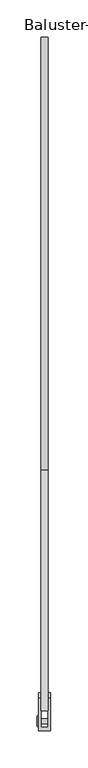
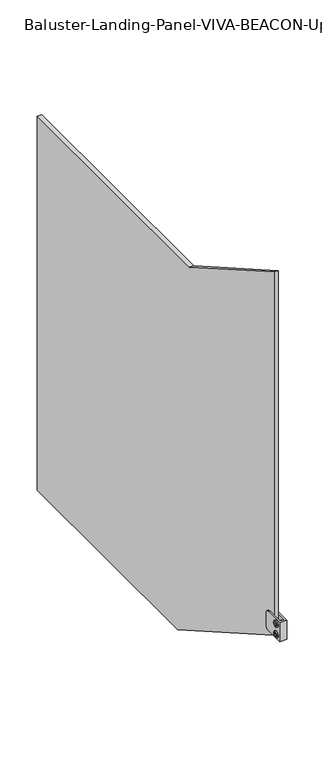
"""IFC4 building model written with IfcOpenShell, lengths in millimetres: railing geometry, Baluster-Landing-Panel-VIVA-BEACON-Upper : Standard_Glass."""

from ifc_helpers import new_model, si_unit, point, frame, origin, place, context, project, spatial, polyline, circle_curve, ellipse_curve, trimmed, outline, extrude, source, transform, mapped, element, save
from ifc_brep_helpers import plane_surface, cylinder_surface, revolved_surface, advanced_brep


def baluster_landing_panel_viva_beacon_upper_standard_glass_9e54e94a(model_context):
    return source(origin(), model_context, "Body", "SolidModel", [
        extrude(outline(polyline([(-18.4480835, 430.742725), (-16.4011194, 434.2881709), (-12.3071911, 434.2881709), (-10.2602269, 430.742725), (-12.3071911, 427.1972791), (-16.4011194, 427.1972791), (-18.4480835, 430.742725)])), frame((26.0686477, 0.0, 0.0), z_axis=(1.0, 0.0, 0.0), x_axis=(0.0, 1.0, 0.0)), (0.0, 0.0, 1.0), 1.4969696),
        advanced_brep(
        [(41.1327292, -17.8996011, 430.742725), (28.4327292, -17.8996011, 430.742725), (28.4327292, -10.8087093, 430.742725), (41.1327292, -10.8087093, 430.742725), (28.4327292, -21.7619443, 430.742725), (28.4327292, -6.9463661, 430.742725), (27.5656173, -16.0102306, 430.742725), (41.1327292, -16.0102306, 430.742725), (41.1327292, -12.6980798, 430.742725), (27.5656173, -12.6980798, 430.742725), (27.5978844, -21.7619443, 430.742725), (26.3166123, -20.4806723, 430.742725), (26.3166123, -8.2276382, 430.742725), (27.5978844, -6.9463661, 430.742725), (26.3166123, -18.6527508, 430.742725), (26.3166123, -10.0555597, 430.742725), (27.5656173, -18.6527508, 430.742725), (27.5656173, -10.0555597, 430.742725)],
        [
            (0, 1),
            (1, 2, circle_curve(frame((28.4327292, -14.3541552, 430.742725), z_axis=(1.0, 0.0, 0.0), x_axis=(0.0, 1.0, 0.0)), 3.5454459)),
            (2, 3),
            (3, 0, circle_curve(frame((41.1327292, -14.3541552, 430.742725), z_axis=(-1.0, 0.0, 0.0), x_axis=(0.0, 1.0, 0.0)), 3.5454459)),
            (2, 1, circle_curve(frame((28.4327292, -14.3541552, 430.742725), z_axis=(1.0, 0.0, 0.0), x_axis=(0.0, 1.0, 0.0)), 3.5454459)),
            (0, 3, circle_curve(frame((41.1327292, -14.3541552, 430.742725), z_axis=(-1.0, 0.0, 0.0), x_axis=(0.0, 1.0, 0.0)), 3.5454459)),
            (1, 4),
            (4, 5, circle_curve(frame((28.4327292, -14.3541552, 430.742725), z_axis=(1.0, 0.0, 0.0), x_axis=(0.0, 1.0, 0.0)), 7.4077891)),
            (5, 2),
            (5, 4, circle_curve(frame((28.4327292, -14.3541552, 430.742725), z_axis=(1.0, 0.0, 0.0), x_axis=(0.0, 1.0, 0.0)), 7.4077891)),
            (6, 7),
            (7, 8, circle_curve(frame((41.1327292, -14.3541552, 430.742725), z_axis=(1.0, 0.0, 0.0), x_axis=(0.0, 1.0, 0.0)), 1.6560754)),
            (8, 9),
            (9, 6, circle_curve(frame((27.5656173, -14.3541552, 430.742725), z_axis=(-1.0, 0.0, 0.0), x_axis=(0.0, 1.0, 0.0)), 1.6560754)),
            (8, 7, circle_curve(frame((41.1327292, -14.3541552, 430.742725), z_axis=(1.0, 0.0, 0.0), x_axis=(0.0, 1.0, 0.0)), 1.6560754)),
            (6, 9, circle_curve(frame((27.5656173, -14.3541552, 430.742725), z_axis=(-1.0, 0.0, 0.0), x_axis=(0.0, 1.0, 0.0)), 1.6560754)),
            (10, 11, circle_curve(frame((27.5978844, -20.4806723, 430.742725), z_axis=(0.0, 0.0, -1.0), x_axis=(0.0, -1.0, 0.0)), 1.281272)),
            (11, 12, circle_curve(frame((26.3166123, -14.3541552, 430.742725), z_axis=(1.0, 0.0, 0.0), x_axis=(0.0, 1.0, 0.0)), 6.1265171)),
            (12, 13, circle_curve(frame((27.5978844, -8.2276382, 430.742725), z_axis=(0.0, 0.0, -1.0), x_axis=(0.0, 1.0, 0.0)), 1.281272)),
            (13, 10, circle_curve(frame((27.5978844, -14.3541552, 430.742725), z_axis=(-1.0, 0.0, 0.0), x_axis=(0.0, 1.0, 0.0)), 7.4077891)),
            (12, 11, circle_curve(frame((26.3166123, -14.3541552, 430.742725), z_axis=(1.0, 0.0, 0.0), x_axis=(0.0, 1.0, 0.0)), 6.1265171)),
            (10, 13, circle_curve(frame((27.5978844, -14.3541552, 430.742725), z_axis=(-1.0, 0.0, 0.0), x_axis=(0.0, 1.0, 0.0)), 7.4077891)),
            (11, 14),
            (14, 15, circle_curve(frame((26.3166123, -14.3541552, 430.742725), z_axis=(1.0, 0.0, 0.0), x_axis=(0.0, 1.0, 0.0)), 4.2985955)),
            (15, 12),
            (15, 14, circle_curve(frame((26.3166123, -14.3541552, 430.742725), z_axis=(1.0, 0.0, 0.0), x_axis=(0.0, 1.0, 0.0)), 4.2985955)),
            (4, 10),
            (13, 5),
            (7, 0),
            (3, 8),
            (14, 16),
            (16, 17, circle_curve(frame((27.5656173, -14.3541552, 430.742725), z_axis=(1.0, 0.0, 0.0), x_axis=(0.0, 1.0, 0.0)), 4.2985955)),
            (17, 15),
            (17, 16, circle_curve(frame((27.5656173, -14.3541552, 430.742725), z_axis=(1.0, 0.0, 0.0), x_axis=(0.0, 1.0, 0.0)), 4.2985955)),
            (16, 6),
            (9, 17),
        ],
        [
            cylinder_surface(frame((31.9294623, -14.3541552, 430.742725), z_axis=(1.0, 0.0, 0.0), x_axis=(0.0, 1.0, 0.0)), 3.5454459),
            plane_surface(frame((28.4327292, -14.3541552, 430.742725), z_axis=(1.0, 0.0, 0.0), x_axis=(0.0, 1.0, 0.0))),
            revolved_surface(polyline([(41.1327292, -12.698079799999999, 430.742725), (27.5656173, -12.698079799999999, 430.742725)]), (31.9294623, -14.3541552, 430.742725), (1.0, 0.0, 0.0)),
            revolved_surface(trimmed(ellipse_curve(frame((27.5978844, -8.2276382, 430.742725), z_axis=(0.0, 0.0, -1.0), x_axis=(0.0, 1.0, 0.0)), 1.281272, 1.281272), [point((26.3166123, -8.2276382, 430.742725))], [point((27.5978844, -6.9463661, 430.742725))], True, "CARTESIAN"), (31.9294623, -14.3541552, 430.742725), (1.0, 0.0, 0.0)),
            plane_surface(frame((26.3166123, -14.3541552, 430.742725), z_axis=(-1.0, 0.0, 0.0), x_axis=(0.0, 1.0, 0.0))),
            cylinder_surface(frame((31.9294623, -14.3541552, 430.742725), z_axis=(1.0, 0.0, 0.0), x_axis=(0.0, 1.0, 0.0)), 7.4077891),
            plane_surface(frame((41.1327292, -14.3541552, 430.742725), z_axis=(1.0, 0.0, 0.0), x_axis=(0.0, 1.0, 0.0))),
            revolved_surface(polyline([(27.5656173, -10.0555597, 430.742725), (26.3166123, -10.0555597, 430.742725)]), (31.9294623, -14.3541552, 430.742725), (1.0, 0.0, 0.0)),
            plane_surface(frame((27.5656173, -14.3541552, 430.742725), z_axis=(-1.0, 0.0, 0.0), x_axis=(0.0, 1.0, 0.0))),
        ],
        [
            (0, [[1, 2, 3, 4]]),
            (0, [[-3, 5, -1, 6]]),
            (1, [[7, 8, 9, -2]]),
            (1, [[-9, 10, -7, -5]]),
            (2, [[11, 12, 13, 14]]),
            (2, [[-13, 15, -11, 16]]),
            (3, [[17, 18, 19, 20]]),
            (3, [[-19, 21, -17, 22]]),
            (4, [[23, 24, 25, -18]]),
            (4, [[-25, 26, -23, -21]]),
            (5, [[27, -20, 28, -8]]),
            (5, [[-28, -22, -27, -10]]),
            (6, [[29, -4, 30, -12]]),
            (6, [[-30, -6, -29, -15]]),
            (7, [[31, 32, 33, -24]]),
            (7, [[-33, 34, -31, -26]]),
            (8, [[35, -14, 36, -32]]),
            (8, [[-36, -16, -35, -34]]),
        ],
    ),
        advanced_brep(
        [(41.1327292, -17.8996011, 406.136475), (28.4327292, -17.8996011, 406.136475), (28.4327292, -10.8087093, 406.136475), (41.1327292, -10.8087093, 406.136475), (28.4327292, -21.7619443, 406.136475), (28.4327292, -6.9463661, 406.136475), (27.5656173, -16.0102306, 406.136475), (41.1327292, -16.0102306, 406.136475), (41.1327292, -12.6980798, 406.136475), (27.5656173, -12.6980798, 406.136475), (27.5978844, -21.7619443, 406.136475), (26.3166123, -20.4806723, 406.136475), (26.3166123, -8.2276382, 406.136475), (27.5978844, -6.9463661, 406.136475), (26.3166123, -18.6527508, 406.136475), (26.3166123, -10.0555597, 406.136475), (27.5656173, -18.6527508, 406.136475), (27.5656173, -10.0555597, 406.136475)],
        [
            (0, 1),
            (1, 2, circle_curve(frame((28.4327292, -14.3541552, 406.136475), z_axis=(1.0, 0.0, 0.0), x_axis=(0.0, 1.0, 0.0)), 3.5454459)),
            (2, 3),
            (3, 0, circle_curve(frame((41.1327292, -14.3541552, 406.136475), z_axis=(-1.0, 0.0, 0.0), x_axis=(0.0, 1.0, 0.0)), 3.5454459)),
            (2, 1, circle_curve(frame((28.4327292, -14.3541552, 406.136475), z_axis=(1.0, 0.0, 0.0), x_axis=(0.0, 1.0, 0.0)), 3.5454459)),
            (0, 3, circle_curve(frame((41.1327292, -14.3541552, 406.136475), z_axis=(-1.0, 0.0, 0.0), x_axis=(0.0, 1.0, 0.0)), 3.5454459)),
            (1, 4),
            (4, 5, circle_curve(frame((28.4327292, -14.3541552, 406.136475), z_axis=(1.0, 0.0, 0.0), x_axis=(0.0, 1.0, 0.0)), 7.4077891)),
            (5, 2),
            (5, 4, circle_curve(frame((28.4327292, -14.3541552, 406.136475), z_axis=(1.0, 0.0, 0.0), x_axis=(0.0, 1.0, 0.0)), 7.4077891)),
            (6, 7),
            (7, 8, circle_curve(frame((41.1327292, -14.3541552, 406.136475), z_axis=(1.0, 0.0, 0.0), x_axis=(0.0, 1.0, 0.0)), 1.6560754)),
            (8, 9),
            (9, 6, circle_curve(frame((27.5656173, -14.3541552, 406.136475), z_axis=(-1.0, 0.0, 0.0), x_axis=(0.0, 1.0, 0.0)), 1.6560754)),
            (8, 7, circle_curve(frame((41.1327292, -14.3541552, 406.136475), z_axis=(1.0, 0.0, 0.0), x_axis=(0.0, 1.0, 0.0)), 1.6560754)),
            (6, 9, circle_curve(frame((27.5656173, -14.3541552, 406.136475), z_axis=(-1.0, 0.0, 0.0), x_axis=(0.0, 1.0, 0.0)), 1.6560754)),
            (10, 11, circle_curve(frame((27.5978844, -20.4806723, 406.136475), z_axis=(0.0, 0.0, -1.0), x_axis=(0.0, -1.0, 0.0)), 1.281272)),
            (11, 12, circle_curve(frame((26.3166123, -14.3541552, 406.136475), z_axis=(1.0, 0.0, 0.0), x_axis=(0.0, 1.0, 0.0)), 6.1265171)),
            (12, 13, circle_curve(frame((27.5978844, -8.2276382, 406.136475), z_axis=(0.0, 0.0, -1.0), x_axis=(0.0, 1.0, 0.0)), 1.281272)),
            (13, 10, circle_curve(frame((27.5978844, -14.3541552, 406.136475), z_axis=(-1.0, 0.0, 0.0), x_axis=(0.0, 1.0, 0.0)), 7.4077891)),
            (12, 11, circle_curve(frame((26.3166123, -14.3541552, 406.136475), z_axis=(1.0, 0.0, 0.0), x_axis=(0.0, 1.0, 0.0)), 6.1265171)),
            (10, 13, circle_curve(frame((27.5978844, -14.3541552, 406.136475), z_axis=(-1.0, 0.0, 0.0), x_axis=(0.0, 1.0, 0.0)), 7.4077891)),
            (11, 14),
            (14, 15, circle_curve(frame((26.3166123, -14.3541552, 406.136475), z_axis=(1.0, 0.0, 0.0), x_axis=(0.0, 1.0, 0.0)), 4.2985955)),
            (15, 12),
            (15, 14, circle_curve(frame((26.3166123, -14.3541552, 406.136475), z_axis=(1.0, 0.0, 0.0), x_axis=(0.0, 1.0, 0.0)), 4.2985955)),
            (7, 0),
            (3, 8),
            (4, 10),
            (13, 5),
            (14, 16),
            (16, 17, circle_curve(frame((27.5656173, -14.3541552, 406.136475), z_axis=(1.0, 0.0, 0.0), x_axis=(0.0, 1.0, 0.0)), 4.2985955)),
            (17, 15),
            (17, 16, circle_curve(frame((27.5656173, -14.3541552, 406.136475), z_axis=(1.0, 0.0, 0.0), x_axis=(0.0, 1.0, 0.0)), 4.2985955)),
            (16, 6),
            (9, 17),
        ],
        [
            cylinder_surface(frame((31.9294623, -14.3541552, 406.136475), z_axis=(1.0, 0.0, 0.0), x_axis=(0.0, 1.0, 0.0)), 3.5454459),
            plane_surface(frame((28.4327292, -14.3541552, 406.136475), z_axis=(1.0, 0.0, 0.0), x_axis=(0.0, 1.0, 0.0))),
            revolved_surface(polyline([(41.1327292, -12.698079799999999, 406.136475), (27.5656173, -12.698079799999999, 406.136475)]), (31.9294623, -14.3541552, 406.136475), (1.0, 0.0, 0.0)),
            revolved_surface(trimmed(ellipse_curve(frame((27.5978844, -8.2276382, 406.136475), z_axis=(0.0, 0.0, -1.0), x_axis=(0.0, 1.0, 0.0)), 1.281272, 1.281272), [point((26.3166123, -8.2276382, 406.136475))], [point((27.5978844, -6.9463661, 406.136475))], True, "CARTESIAN"), (31.9294623, -14.3541552, 406.136475), (1.0, 0.0, 0.0)),
            plane_surface(frame((26.3166123, -14.3541552, 406.136475), z_axis=(-1.0, 0.0, 0.0), x_axis=(0.0, 1.0, 0.0))),
            plane_surface(frame((41.1327292, -14.3541552, 406.136475), z_axis=(1.0, 0.0, 0.0), x_axis=(0.0, 1.0, 0.0))),
            cylinder_surface(frame((31.9294623, -14.3541552, 406.136475), z_axis=(1.0, 0.0, 0.0), x_axis=(0.0, 1.0, 0.0)), 7.4077891),
            revolved_surface(polyline([(27.5656173, -10.0555597, 406.136475), (26.3166123, -10.0555597, 406.136475)]), (31.9294623, -14.3541552, 406.136475), (1.0, 0.0, 0.0)),
            plane_surface(frame((27.5656173, -14.3541552, 406.136475), z_axis=(-1.0, 0.0, 0.0), x_axis=(0.0, 1.0, 0.0))),
        ],
        [
            (0, [[1, 2, 3, 4]]),
            (0, [[-3, 5, -1, 6]]),
            (1, [[7, 8, 9, -2]]),
            (1, [[-9, 10, -7, -5]]),
            (2, [[11, 12, 13, 14]]),
            (2, [[-13, 15, -11, 16]]),
            (3, [[17, 18, 19, 20]]),
            (3, [[-19, 21, -17, 22]]),
            (4, [[23, 24, 25, -18]]),
            (4, [[-25, 26, -23, -21]]),
            (5, [[27, -4, 28, -12]]),
            (5, [[-28, -6, -27, -15]]),
            (6, [[29, -20, 30, -8]]),
            (6, [[-30, -22, -29, -10]]),
            (7, [[31, 32, 33, -24]]),
            (7, [[-33, 34, -31, -26]]),
            (8, [[35, -14, 36, -32]]),
            (8, [[-36, -16, -35, -34]]),
        ],
    ),
        extrude(outline(polyline([(-18.4480835, 406.136475), (-16.4011194, 409.6819209), (-12.3071911, 409.6819209), (-10.2602269, 406.136475), (-12.3071911, 402.5910291), (-16.4011194, 402.5910291), (-18.4480835, 406.136475)])), frame((26.0686477, 0.0, 0.0), z_axis=(1.0, 0.0, 0.0), x_axis=(0.0, 1.0, 0.0)), (0.0, 0.0, 1.0), 1.4969696),
        advanced_brep(
        [(28.4327292, -26.9875, 440.6646), (28.4327292, 17.4625, 440.6646), (28.4327292, 23.8125, 434.3146), (28.4327292, 23.8125, 402.5646), (28.4327292, 17.4625, 396.2146), (28.4327292, -26.9875, 396.2146), (44.3077292, -26.9875, 440.6646), (44.3077292, -26.9875, 396.2146), (44.3077292, 17.4625, 396.2146), (44.3077292, 23.8125, 402.5646), (44.3077292, 23.8125, 434.3146), (44.3077292, 17.4625, 440.6646), (31.6077292, 17.4625, 396.2146), (31.6077292, -22.2694196, 396.2146), (41.1327292, -22.2694196, 396.2146), (41.1327292, 17.4625, 396.2146), (31.6077292, -22.2694196, 440.6646), (41.1327292, -22.2694196, 440.6646), (31.6077292, 23.8125, 402.5646), (31.6077292, 23.8125, 434.3146), (31.6077292, 17.4625, 440.6646), (41.1327292, 17.4625, 440.6646), (41.1327292, 23.8125, 434.3146), (41.1327292, 23.8125, 402.5646)],
        [
            (0, 1),
            (1, 2, circle_curve(frame((28.4327292, 17.4625, 434.3146), z_axis=(-1.0, 0.0, 0.0), x_axis=(0.0, 1.0, 0.0)), 6.35)),
            (2, 3),
            (3, 4, circle_curve(frame((28.4327292, 17.4625, 402.5646), z_axis=(-1.0, 0.0, 0.0), x_axis=(0.0, 1.0, 0.0)), 6.35)),
            (4, 5),
            (5, 0),
            (6, 7),
            (7, 8),
            (8, 9, circle_curve(frame((44.3077292, 17.4625, 402.5646), z_axis=(1.0, 0.0, 0.0), x_axis=(0.0, 1.0, 0.0)), 6.35)),
            (9, 10),
            (10, 11, circle_curve(frame((44.3077292, 17.4625, 434.3146), z_axis=(1.0, 0.0, 0.0), x_axis=(0.0, 1.0, 0.0)), 6.35)),
            (11, 6),
            (5, 7),
            (6, 0),
            (4, 12),
            (12, 13),
            (13, 14),
            (14, 15),
            (15, 8),
            (13, 16),
            (16, 17),
            (17, 14),
            (12, 18, circle_curve(frame((31.6077292, 17.4625, 402.5646), z_axis=(1.0, 0.0, 0.0), x_axis=(0.0, 1.0, 0.0)), 6.35)),
            (18, 19),
            (19, 20, circle_curve(frame((31.6077292, 17.4625, 434.3146), z_axis=(1.0, 0.0, 0.0), x_axis=(0.0, 1.0, 0.0)), 6.35)),
            (20, 16),
            (17, 21),
            (21, 22, circle_curve(frame((41.1327292, 17.4625, 434.3146), z_axis=(-1.0, 0.0, 0.0), x_axis=(0.0, 1.0, 0.0)), 6.35)),
            (22, 23),
            (23, 15, circle_curve(frame((41.1327292, 17.4625, 402.5646), z_axis=(-1.0, 0.0, 0.0), x_axis=(0.0, 1.0, 0.0)), 6.35)),
            (23, 9),
            (3, 18),
            (22, 10),
            (2, 19),
            (21, 11),
            (1, 20),
        ],
        [
            plane_surface(frame((28.4327292, -26.9875, 396.2146), z_axis=(-1.0, 0.0, 0.0), x_axis=(0.0, 0.0, -1.0))),
            plane_surface(frame((44.3077292, -26.9875, 396.2146), z_axis=(1.0, 0.0, 0.0), x_axis=(0.0, 0.0, 1.0))),
            plane_surface(frame((28.4327292, -26.9875, 440.6646), z_axis=(0.0, -1.0, 0.0), x_axis=(1.0, 0.0, 0.0))),
            plane_surface(frame((28.4327292, -26.9875, 396.2146), z_axis=(0.0, 0.0, -1.0), x_axis=(1.0, 0.0, 0.0))),
            plane_surface(frame((41.1327292, -22.2694196, 453.3646), z_axis=(0.0, 1.0, 0.0), x_axis=(0.0, 0.0, -1.0))),
            plane_surface(frame((31.6077292, -22.2694196, 453.3646), z_axis=(1.0, 0.0, 0.0), x_axis=(0.0, 0.0, -1.0))),
            plane_surface(frame((41.1327292, 36.5125, 453.3646), z_axis=(-1.0, 0.0, 0.0), x_axis=(0.0, 0.0, -1.0))),
            cylinder_surface(frame((44.3077292, 17.4625, 402.5646), z_axis=(-1.0, 0.0, 0.0), x_axis=(0.0, 1.0, 0.0)), 6.35),
            plane_surface(frame((28.4327292, 23.8125, 402.5646), z_axis=(0.0, 1.0, 0.0), x_axis=(1.0, 0.0, 0.0))),
            cylinder_surface(frame((44.3077292, 17.4625, 434.3146), z_axis=(-1.0, 0.0, 0.0), x_axis=(0.0, 1.0, 0.0)), 6.35),
            plane_surface(frame((28.4327292, 17.4625, 440.6646), z_axis=(0.0, 0.0, 1.0), x_axis=(1.0, 0.0, 0.0))),
        ],
        [
            (0, [[1, 2, 3, 4, 5, 6]]),
            (1, [[7, 8, 9, 10, 11, 12]]),
            (2, [[13, -7, 14, -6]]),
            (3, [[15, 16, 17, 18, 19, -8, -13, -5]]),
            (4, [[-17, 20, 21, 22]]),
            (5, [[-16, 23, 24, 25, 26, -20]]),
            (6, [[27, 28, 29, 30, -18, -22]]),
            (7, [[-19, -30, 31, -9]]),
            (7, [[32, -23, -15, -4]]),
            (8, [[-31, -29, 33, -10]]),
            (8, [[34, -24, -32, -3]]),
            (9, [[-33, -28, 35, -11]]),
            (9, [[36, -25, -34, -2]]),
            (10, [[-14, -12, -35, -27, -21, -26, -36, -1]]),
        ],
    ),
        extrude(outline(polyline([(323.3806559, 1056.2336), (904.2856444, 1056.2336), (904.2856444, 183.918425), (367.5905023, 183.918425), (0.0, 393.9286), (0.0, 1240.9860017), (323.3806559, 1056.2336)])), frame((31.6077292, 0.0, 0.0), z_axis=(1.0, 0.0, 0.0), x_axis=(0.0, 1.0, 0.0)), (0.0, 0.0, 1.0), 9.525),
    ])


if __name__ == "__main__":
    model = new_model("IFC4")
    model_context = context("Model", 3, world=origin())
    ifc_project = project(units=[si_unit("LENGTHUNIT", "METRE", prefix="MILLI")], contexts=[model_context])
    site = spatial("IfcSite", under=ifc_project)
    building = spatial("IfcBuilding", under=site)
    placement = place(None, origin())
    baluster_landing_panel_viva_beacon_upper_standard_glass_shape = baluster_landing_panel_viva_beacon_upper_standard_glass_9e54e94a(model_context)
    element("IfcRailing", 1, ObjectType="Baluster-Landing-Panel-VIVA-BEACON-Upper : Standard_Glass", at=placement, inside=building, context=model_context, shape_type="MappedRepresentation", body=[
        mapped(baluster_landing_panel_viva_beacon_upper_standard_glass_shape, transform((0.0, 0.0, 0.0), x_axis=(1.0, 0.0, 0.0), y_axis=(0.0, 1.0, 0.0), z_axis=(0.0, 0.0, 1.0))),
    ])
    save(model, "model.ifc")
